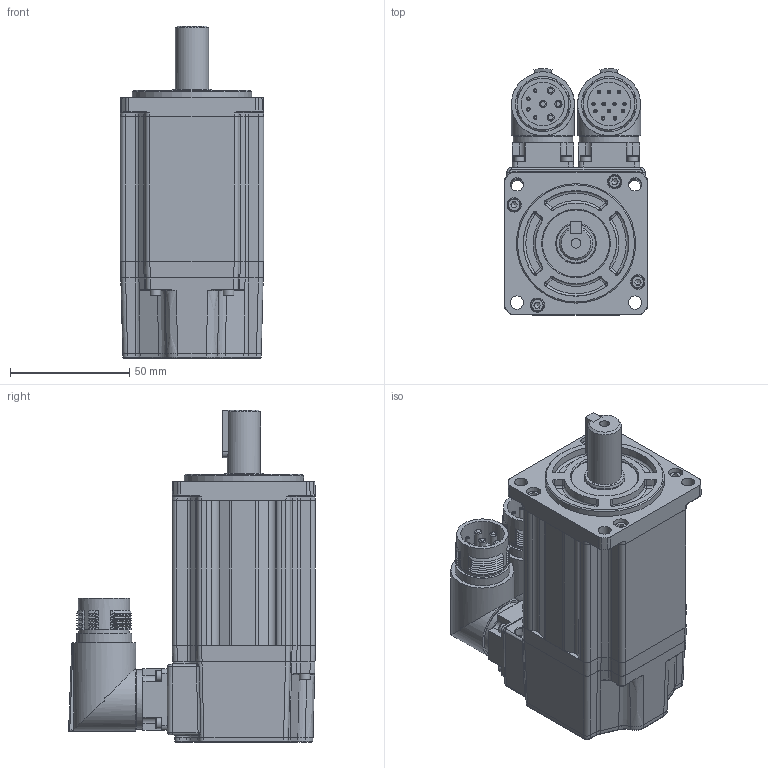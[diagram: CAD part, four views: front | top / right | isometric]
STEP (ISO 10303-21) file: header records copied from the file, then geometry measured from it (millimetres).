
FILE_DESCRIPTION(/* description */ ('Unknown'),/* implementation_level */ '2;1');
FILE_NAME(/* name */ 'BA24HA0402E0B00',/* time_stamp */ '2024-07-08T09:04:11+02:00',/* author */ ('Unknown'),/* organization */ ('Unknown'),/* preprocessor_version */ 'ST-DEVELOPER v16.7',/* originating_system */ 'Solid Edge',/* authorisation */ 'Unknown');
FILE_SCHEMA (('AUTOMOTIVE_DESIGN {1 0 10303 214 3 1 1}'));
Length unit declared in the file: millimetre
Products named in the file (27): BA24HA0402E0B00; Z8A06-040XX-XXX-NKSB-D14E30_ASM_ASM; Z8A06-040XX-XXX-NKSB-D14E30_1_A_ASM; 623-1-SOL-156000_1; S0602-M23-1-SOL-110001_1; S060-1-SOLI-184700_1; S060-1-SOL-3492000_1; S060-1-SOLI-586000_1; 623-1-SOL-6851000_1; 623-1-SOL-9169000_1; 923-1-SOL-11486000_1; 623-1-SOL-18830000_1; S0602-M23-1-SOL-220001_1; S0601-2-SOL000_1; 923-1-SOL-26186000_1; S060-1-SOLI-2849100_1; S0602-M23-1-SOL-300001_1; S0602-M23-1-SOL-340001_1; S0602-M23-1-SOL-380001_1; 623-1-SOL-42745000_1; S060-1-SOL-43735000_1; S060-1-SOLI-4440700_1; S060-1-SOLI-4609300_1; 923-1-SOL-47776000_1; S060-2-SOLI00_1; 923-1-SOL-50101000_1; 923-1-SOL-53376000_1
Assembly tree (26 placements, depth 4):
  BA24HA0402E0B00
    Z8A06-040XX-XXX-NKSB-D14E30_ASM_ASM
      Z8A06-040XX-XXX-NKSB-D14E30_1_A_ASM
        623-1-SOL-156000_1
        S0602-M23-1-SOL-110001_1
        S060-1-SOLI-184700_1
        S060-1-SOL-3492000_1
        S060-1-SOLI-586000_1
        623-1-SOL-6851000_1
        623-1-SOL-9169000_1
        923-1-SOL-11486000_1
        623-1-SOL-18830000_1
        S0602-M23-1-SOL-220001_1
        S0601-2-SOL000_1
        923-1-SOL-26186000_1
        S060-1-SOLI-2849100_1
        S0602-M23-1-SOL-300001_1
        S0602-M23-1-SOL-340001_1
        S0602-M23-1-SOL-380001_1
        623-1-SOL-42745000_1
        S060-1-SOL-43735000_1
        S060-1-SOLI-4440700_1
        S060-1-SOLI-4609300_1
        923-1-SOL-47776000_1
        S060-2-SOLI00_1
        923-1-SOL-50101000_1
        923-1-SOL-53376000_1
Bounding box: 60 x 103.37 x 139 mm (x, y, z)
Volume: 409800.6 mm3; surface area: 92104.1 mm2
Topology: 24 solids, 24 shells, 1481 faces, 3555 edges, 2199 vertices
Faces by surface type: plane 689, cylinder 370, cone 246, bspline 80, torus 79, sphere 17
Full cylindrical faces by diameter (mm): 1.5 x16, 2 x3, 2.05 x8, 2.5 x36, 2.9 x4, 3 x16, 3.4 x4, 4 x1, 4.5 x12, 4.7 x4, 4.8 x2, 5.5 x8, 5.794 x1, 5.8 x4, 5.814 x2, 12 x2, 14 x1, 17 x1, 18.2 x2, 20 x4, 21.15 x2, 21.6 x2, 23 x2, 24.12 x2, 25 x2, 26.45 x2, 28 x1, 48 x1, 50 x1, 50.6 x1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
Entity records: 44223 total; most frequent: CARTESIAN_POINT 11768, DIRECTION 6611, ORIENTED_EDGE 6094, EDGE_CURVE 3047, AXIS2_PLACEMENT_3D 2576, VERTEX_POINT 2041, FACE_BOUND 1980, EDGE_LOOP 1948
